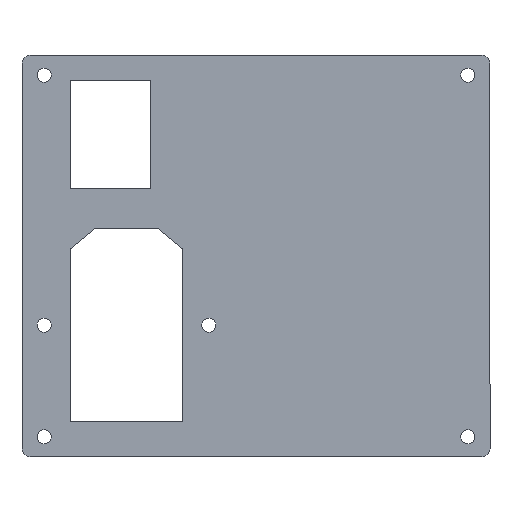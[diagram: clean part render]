
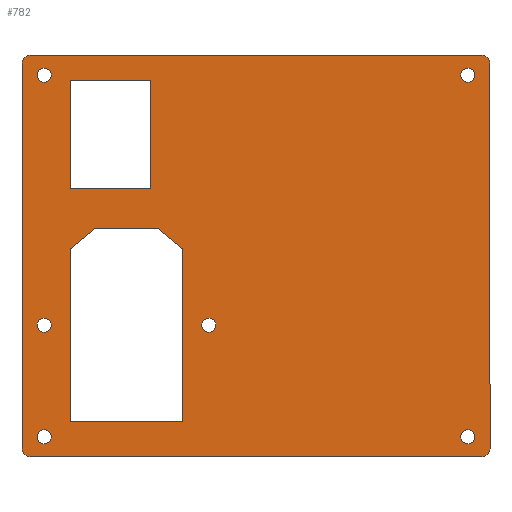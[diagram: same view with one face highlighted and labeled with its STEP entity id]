
A CAD part, top view. The second image highlights one B-rep face of the part: STEP entity #782.
In plain terms, the highlighted planar face has unit normal (0, 0, 1).
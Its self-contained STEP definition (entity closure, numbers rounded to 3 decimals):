
#21=FACE_BOUND('',#150,.T.);
#22=FACE_BOUND('',#151,.T.);
#23=FACE_BOUND('',#152,.T.);
#24=FACE_BOUND('',#153,.T.);
#25=FACE_BOUND('',#154,.T.);
#26=FACE_BOUND('',#155,.T.);
#27=FACE_BOUND('',#156,.T.);
#28=FACE_BOUND('',#157,.T.);
#41=CIRCLE('',#814,1.75);
#43=CIRCLE('',#817,1.75);
#45=CIRCLE('',#826,1.75);
#47=CIRCLE('',#829,1.75);
#49=CIRCLE('',#832,1.75);
#51=CIRCLE('',#835,1.75);
#52=CIRCLE('',#837,2.);
#54=CIRCLE('',#840,2.);
#55=CIRCLE('',#841,2.);
#56=CIRCLE('',#842,2.);
#102=FACE_OUTER_BOUND('',#149,.T.);
#149=EDGE_LOOP('',(#631,#632,#633,#634,#635,#636,#637,#638));
#150=EDGE_LOOP('',(#639,#640,#641,#642));
#151=EDGE_LOOP('',(#643));
#152=EDGE_LOOP('',(#644));
#153=EDGE_LOOP('',(#645,#646,#647,#648,#649,#650));
#154=EDGE_LOOP('',(#651));
#155=EDGE_LOOP('',(#652));
#156=EDGE_LOOP('',(#653));
#157=EDGE_LOOP('',(#654));
#213=LINE('',#1139,#295);
#217=LINE('',#1147,#299);
#220=LINE('',#1153,#302);
#223=LINE('',#1158,#305);
#225=LINE('',#1173,#307);
#229=LINE('',#1181,#311);
#232=LINE('',#1187,#314);
#235=LINE('',#1193,#317);
#238=LINE('',#1199,#320);
#241=LINE('',#1204,#323);
#245=LINE('',#1237,#327);
#246=LINE('',#1241,#328);
#247=LINE('',#1245,#329);
#248=LINE('',#1248,#330);
#295=VECTOR('',#924,10.);
#299=VECTOR('',#930,10.);
#302=VECTOR('',#935,10.);
#305=VECTOR('',#940,10.);
#307=VECTOR('',#956,10.);
#311=VECTOR('',#962,10.);
#314=VECTOR('',#967,10.);
#317=VECTOR('',#972,10.);
#320=VECTOR('',#977,10.);
#323=VECTOR('',#982,10.);
#327=VECTOR('',#1018,10.);
#328=VECTOR('',#1021,10.);
#329=VECTOR('',#1024,10.);
#330=VECTOR('',#1027,10.);
#365=VERTEX_POINT('',#1137);
#366=VERTEX_POINT('',#1138);
#369=VERTEX_POINT('',#1146);
#371=VERTEX_POINT('',#1152);
#374=VERTEX_POINT('',#1163);
#376=VERTEX_POINT('',#1168);
#377=VERTEX_POINT('',#1171);
#378=VERTEX_POINT('',#1172);
#381=VERTEX_POINT('',#1180);
#383=VERTEX_POINT('',#1186);
#385=VERTEX_POINT('',#1192);
#387=VERTEX_POINT('',#1198);
#390=VERTEX_POINT('',#1209);
#392=VERTEX_POINT('',#1214);
#394=VERTEX_POINT('',#1219);
#396=VERTEX_POINT('',#1224);
#397=VERTEX_POINT('',#1227);
#398=VERTEX_POINT('',#1228);
#401=VERTEX_POINT('',#1236);
#402=VERTEX_POINT('',#1238);
#403=VERTEX_POINT('',#1240);
#404=VERTEX_POINT('',#1242);
#405=VERTEX_POINT('',#1244);
#406=VERTEX_POINT('',#1246);
#449=EDGE_CURVE('',#365,#366,#213,.T.);
#453=EDGE_CURVE('',#369,#365,#217,.T.);
#456=EDGE_CURVE('',#371,#369,#220,.T.);
#459=EDGE_CURVE('',#366,#371,#223,.T.);
#462=EDGE_CURVE('',#374,#374,#41,.T.);
#464=EDGE_CURVE('',#376,#376,#43,.T.);
#465=EDGE_CURVE('',#377,#378,#225,.T.);
#469=EDGE_CURVE('',#381,#377,#229,.T.);
#472=EDGE_CURVE('',#383,#381,#232,.T.);
#475=EDGE_CURVE('',#385,#383,#235,.T.);
#478=EDGE_CURVE('',#387,#385,#238,.T.);
#481=EDGE_CURVE('',#378,#387,#241,.T.);
#484=EDGE_CURVE('',#390,#390,#45,.T.);
#486=EDGE_CURVE('',#392,#392,#47,.T.);
#488=EDGE_CURVE('',#394,#394,#49,.T.);
#490=EDGE_CURVE('',#396,#396,#51,.T.);
#491=EDGE_CURVE('',#397,#398,#52,.T.);
#495=EDGE_CURVE('',#397,#401,#245,.T.);
#496=EDGE_CURVE('',#402,#401,#54,.T.);
#497=EDGE_CURVE('',#402,#403,#246,.T.);
#498=EDGE_CURVE('',#404,#403,#55,.T.);
#499=EDGE_CURVE('',#404,#405,#247,.T.);
#500=EDGE_CURVE('',#406,#405,#56,.T.);
#501=EDGE_CURVE('',#406,#398,#248,.T.);
#631=ORIENTED_EDGE('',*,*,#491,.F.);
#632=ORIENTED_EDGE('',*,*,#495,.T.);
#633=ORIENTED_EDGE('',*,*,#496,.F.);
#634=ORIENTED_EDGE('',*,*,#497,.T.);
#635=ORIENTED_EDGE('',*,*,#498,.F.);
#636=ORIENTED_EDGE('',*,*,#499,.T.);
#637=ORIENTED_EDGE('',*,*,#500,.F.);
#638=ORIENTED_EDGE('',*,*,#501,.T.);
#639=ORIENTED_EDGE('',*,*,#449,.T.);
#640=ORIENTED_EDGE('',*,*,#459,.T.);
#641=ORIENTED_EDGE('',*,*,#456,.T.);
#642=ORIENTED_EDGE('',*,*,#453,.T.);
#643=ORIENTED_EDGE('',*,*,#462,.T.);
#644=ORIENTED_EDGE('',*,*,#464,.T.);
#645=ORIENTED_EDGE('',*,*,#465,.T.);
#646=ORIENTED_EDGE('',*,*,#481,.T.);
#647=ORIENTED_EDGE('',*,*,#478,.T.);
#648=ORIENTED_EDGE('',*,*,#475,.T.);
#649=ORIENTED_EDGE('',*,*,#472,.T.);
#650=ORIENTED_EDGE('',*,*,#469,.T.);
#651=ORIENTED_EDGE('',*,*,#484,.T.);
#652=ORIENTED_EDGE('',*,*,#486,.T.);
#653=ORIENTED_EDGE('',*,*,#488,.T.);
#654=ORIENTED_EDGE('',*,*,#490,.T.);
#744=PLANE('',#839);
#782=ADVANCED_FACE('',(#102,#21,#22,#23,#24,#25,#26,#27,#28),#744,.T.);
#814=AXIS2_PLACEMENT_3D('',#1164,#946,#947);
#817=AXIS2_PLACEMENT_3D('',#1169,#952,#953);
#826=AXIS2_PLACEMENT_3D('',#1210,#988,#989);
#829=AXIS2_PLACEMENT_3D('',#1215,#994,#995);
#832=AXIS2_PLACEMENT_3D('',#1220,#1000,#1001);
#835=AXIS2_PLACEMENT_3D('',#1225,#1006,#1007);
#837=AXIS2_PLACEMENT_3D('',#1229,#1010,#1011);
#839=AXIS2_PLACEMENT_3D('',#1235,#1016,#1017);
#840=AXIS2_PLACEMENT_3D('',#1239,#1019,#1020);
#841=AXIS2_PLACEMENT_3D('',#1243,#1022,#1023);
#842=AXIS2_PLACEMENT_3D('',#1247,#1025,#1026);
#924=DIRECTION('',(0.,1.,0.));
#930=DIRECTION('',(-1.,0.,0.));
#935=DIRECTION('',(0.,-1.,0.));
#940=DIRECTION('',(1.,0.,0.));
#946=DIRECTION('center_axis',(0.,0.,-1.));
#947=DIRECTION('ref_axis',(-1.,0.,0.));
#952=DIRECTION('center_axis',(0.,0.,-1.));
#953=DIRECTION('ref_axis',(-1.,0.,0.));
#956=DIRECTION('',(0.768,-0.64,0.));
#962=DIRECTION('',(1.,0.,0.));
#967=DIRECTION('',(0.768,0.64,0.));
#972=DIRECTION('',(0.,1.,0.));
#977=DIRECTION('',(-1.,0.,0.));
#982=DIRECTION('',(0.,-1.,0.));
#988=DIRECTION('center_axis',(0.,0.,-1.));
#989=DIRECTION('ref_axis',(-1.,0.,0.));
#994=DIRECTION('center_axis',(0.,0.,-1.));
#995=DIRECTION('ref_axis',(-1.,0.,0.));
#1000=DIRECTION('center_axis',(0.,0.,-1.));
#1001=DIRECTION('ref_axis',(-1.,0.,0.));
#1006=DIRECTION('center_axis',(0.,0.,-1.));
#1007=DIRECTION('ref_axis',(-1.,0.,0.));
#1010=DIRECTION('center_axis',(0.,0.,-1.));
#1011=DIRECTION('ref_axis',(-0.707,-0.707,0.));
#1016=DIRECTION('center_axis',(0.,0.,1.));
#1017=DIRECTION('ref_axis',(1.,0.,0.));
#1018=DIRECTION('',(1.,0.,0.));
#1019=DIRECTION('center_axis',(0.,0.,-1.));
#1020=DIRECTION('ref_axis',(0.707,-0.707,0.));
#1021=DIRECTION('',(0.,1.,0.));
#1022=DIRECTION('center_axis',(0.,0.,-1.));
#1023=DIRECTION('ref_axis',(0.707,0.707,0.));
#1024=DIRECTION('',(-1.,0.,0.));
#1025=DIRECTION('center_axis',(0.,0.,-1.));
#1026=DIRECTION('ref_axis',(-0.707,0.707,0.));
#1027=DIRECTION('',(0.,-1.,0.));
#1137=CARTESIAN_POINT('',(-104.5,-33.3,3.));
#1138=CARTESIAN_POINT('',(-104.5,-6.3,3.));
#1139=CARTESIAN_POINT('',(-104.5,-41.65,3.));
#1146=CARTESIAN_POINT('',(-84.5,-33.3,3.));
#1147=CARTESIAN_POINT('',(-71.375,-33.3,3.));
#1152=CARTESIAN_POINT('',(-84.5,-6.3,3.));
#1153=CARTESIAN_POINT('',(-84.5,-28.15,3.));
#1158=CARTESIAN_POINT('',(-81.375,-6.3,3.));
#1163=CARTESIAN_POINT('',(-109.25,-67.25,3.));
#1164=CARTESIAN_POINT('Origin',(-111.,-67.25,3.));
#1168=CARTESIAN_POINT('',(-68.25,-67.25,3.));
#1169=CARTESIAN_POINT('Origin',(-70.,-67.25,3.));
#1171=CARTESIAN_POINT('',(-82.5,-43.25,3.));
#1172=CARTESIAN_POINT('',(-76.5,-48.25,3.));
#1173=CARTESIAN_POINT('',(-73.684,-50.596,3.));
#1180=CARTESIAN_POINT('',(-98.5,-43.25,3.));
#1181=CARTESIAN_POINT('',(-78.375,-43.25,3.));
#1186=CARTESIAN_POINT('',(-104.5,-48.25,3.));
#1187=CARTESIAN_POINT('',(-91.283,-37.236,3.));
#1192=CARTESIAN_POINT('',(-104.5,-91.25,3.));
#1193=CARTESIAN_POINT('',(-104.5,-70.625,3.));
#1198=CARTESIAN_POINT('',(-76.5,-91.25,3.));
#1199=CARTESIAN_POINT('',(-67.375,-91.25,3.));
#1204=CARTESIAN_POINT('',(-76.5,-49.125,3.));
#1209=CARTESIAN_POINT('',(-109.25,-95.,3.));
#1210=CARTESIAN_POINT('Origin',(-111.,-95.,3.));
#1214=CARTESIAN_POINT('',(-109.25,-5.,3.));
#1215=CARTESIAN_POINT('Origin',(-111.,-5.,3.));
#1219=CARTESIAN_POINT('',(-3.75,-5.,3.));
#1220=CARTESIAN_POINT('Origin',(-5.5,-5.,3.));
#1224=CARTESIAN_POINT('',(-3.75,-95.,3.));
#1225=CARTESIAN_POINT('Origin',(-5.5,-95.,3.));
#1227=CARTESIAN_POINT('',(-114.5,-100.,3.));
#1228=CARTESIAN_POINT('',(-116.5,-98.,3.));
#1229=CARTESIAN_POINT('Origin',(-114.5,-98.,3.));
#1235=CARTESIAN_POINT('Origin',(-58.25,-50.,3.));
#1236=CARTESIAN_POINT('',(-2.,-100.,3.));
#1237=CARTESIAN_POINT('',(-116.5,-100.,3.));
#1238=CARTESIAN_POINT('',(0.,-98.,3.));
#1239=CARTESIAN_POINT('Origin',(-2.,-98.,3.));
#1240=CARTESIAN_POINT('',(0.,-2.,3.));
#1241=CARTESIAN_POINT('',(0.,-100.,3.));
#1242=CARTESIAN_POINT('',(-2.,0.,3.));
#1243=CARTESIAN_POINT('Origin',(-2.,-2.,3.));
#1244=CARTESIAN_POINT('',(-114.5,0.,3.));
#1245=CARTESIAN_POINT('',(0.,0.,3.));
#1246=CARTESIAN_POINT('',(-116.5,-2.,3.));
#1247=CARTESIAN_POINT('Origin',(-114.5,-2.,3.));
#1248=CARTESIAN_POINT('',(-116.5,0.,3.));
